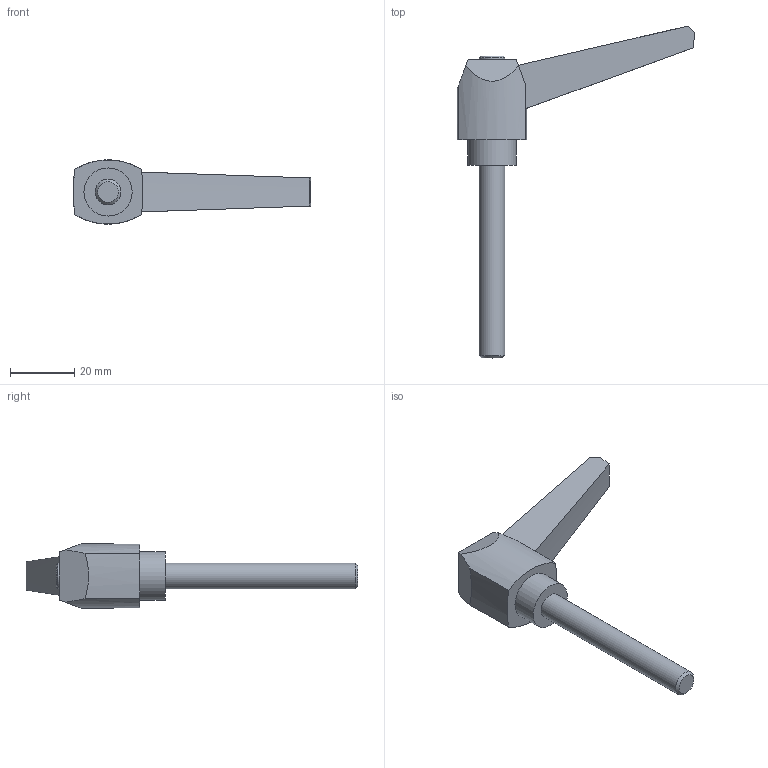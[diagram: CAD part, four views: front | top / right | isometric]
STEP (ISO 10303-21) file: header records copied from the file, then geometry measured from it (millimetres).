
FILE_DESCRIPTION( ( 'STEP AP203' ), '1' );
FILE_NAME( 'C:/Temp/Ganter_Step_05_03_2020/data/2_1/gn_500/gn_500_ms/Adjustable hand lever GN 500-63-M8-60-SW.stp', '2020-03-05T11:26:35', ( 'License CC BY-ND 4.0' ), ( 'CADENAS' ), ' ', 'PARTsolutions', ' ' );
FILE_SCHEMA( ( 'CONFIG_CONTROL_DESIGN' ) );
Length unit declared in the file: millimetre
Products named in the file (1): _Adjustable hand lever GN 500-63-M8-60-SW
Bounding box: 73.9 x 103.35 x 19.99 mm (x, y, z)
Volume: 19503.3 mm3; surface area: 6471.5 mm2
Topology: 1 solids, 1 shells, 24 faces, 56 edges, 37 vertices
Faces by surface type: plane 11, cylinder 7, cone 6
Full cylindrical faces by diameter (mm): 8 x2, 15 x1
Entity records: 708 total; most frequent: DIRECTION 122, CARTESIAN_POINT 117, ORIENTED_EDGE 100, EDGE_CURVE 50, AXIS2_PLACEMENT_3D 49, VERTEX_POINT 36, EDGE_LOOP 32, FACE_OUTER_BOUND 27
